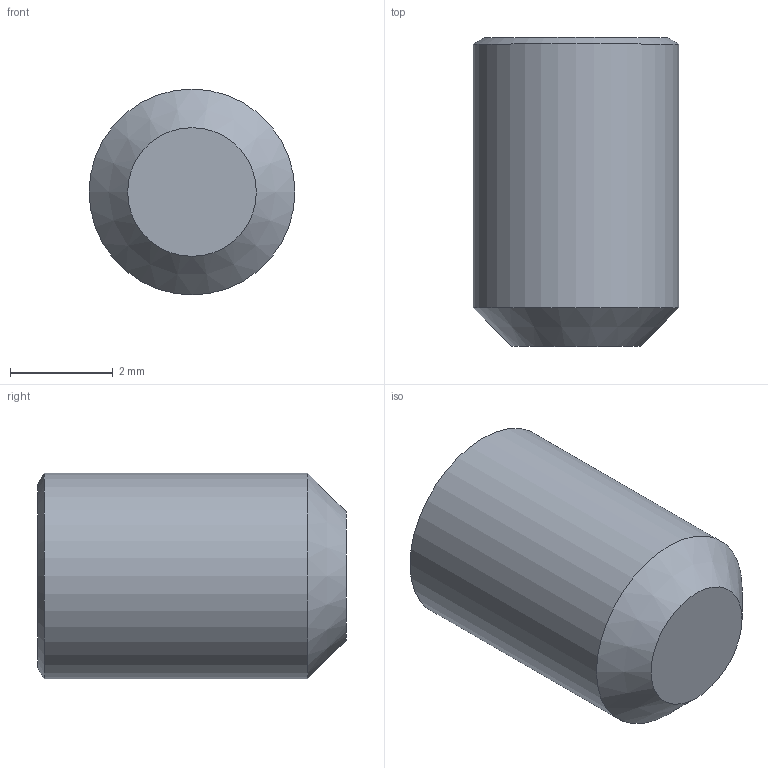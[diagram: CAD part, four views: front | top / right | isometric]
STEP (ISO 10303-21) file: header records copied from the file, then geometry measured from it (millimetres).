
FILE_DESCRIPTION(/* description */ (''),/* implementation_level */ '2;1');
FILE_NAME(/* name */ 'C:\Users\D\Documents\Inventor\各種小物\JIS\止めねじ\平先\M4\M4x6.stp',/* time_stamp */ '2022-06-23T14:24:16+09:00',/* author */ ('D'),/* organization */ (''),/* preprocessor_version */ 'ST-DEVELOPER v18',/* originating_system */ 'Autodesk Inventor 2020',/* authorisation */ '');
FILE_SCHEMA (('AP203_CONFIGURATION_CONTROLLED_3D_DESIGN_OF_MECHANICAL_PARTS_AND_ASSEMBLIES_MIM_LF { 1 0 10303 203 3 1 4 }','AUTOMOTIVE_DESIGN { 1 0 10303 214 3 1 1 }'));
Length unit declared in the file: millimetre
Products named in the file (1): M1.6x2
Bounding box: 4 x 6 x 4 mm (x, y, z)
Volume: 62.6 mm3; surface area: 111.4 mm2
Topology: 1 solids, 1 shells, 12 faces, 28 edges, 18 vertices
Faces by surface type: plane 8, cone 3, cylinder 1
Full cylindrical faces by diameter (mm): 4 x1
Entity records: 369 total; most frequent: CARTESIAN_POINT 72, ORIENTED_EDGE 54, DIRECTION 50, EDGE_CURVE 27, VERTEX_POINT 18, AXIS2_PLACEMENT_3D 17, LINE 16, VECTOR 16
